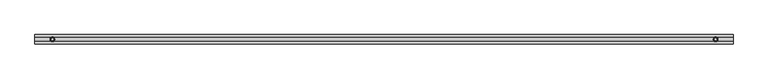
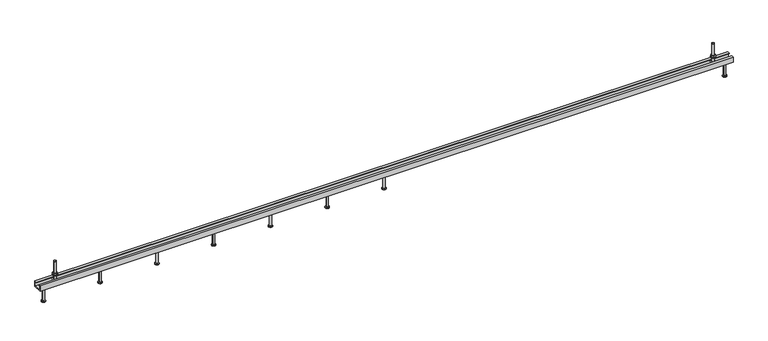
"""IFC4 building model written with IfcOpenShell, lengths in millimetres: fastener geometry, JTA-K JORDAHL® AnchorChannels : JTA-K L=3000 mm."""

from ifc_helpers import new_model, si_unit, point, frame, frame_2d, origin, place, context, project, spatial, polyline, circle_curve, trimmed, segment, composite_curve, outline, extrude, source, transform, mapped, element, save
from ifc_brep_helpers import plane_surface, cylinder_surface, revolved_surface, advanced_brep


def fastener_8d107929(model_context):
    return source(origin(), model_context, "Body", "SolidModel", [
        advanced_brep(
        [(1500.0, 0.0, -25.0), (1486.5, 0.0, -25.0), (1513.5, 0.0, -25.0), (1491.5, 0.0, -90.0), (1500.0, 0.0, -90.0), (1508.5, 0.0, -90.0), (1491.5, 0.0, -88.0), (1508.5, 0.0, -88.0), (1495.5, 0.0, -85.6905989), (1504.5, 0.0, -85.6905989), (1495.5, 0.0, -27.5), (1504.5, 0.0, -27.5)],
        [
            (0, 1),
            (1, 2, circle_curve(frame((1500.0, 0.0, -25.0), z_axis=(0.0, 0.0, 1.0), x_axis=(1.0, 0.0, 0.0)), 13.5)),
            (2, 0),
            (2, 1, circle_curve(frame((1500.0, 0.0, -25.0), z_axis=(0.0, 0.0, 1.0), x_axis=(1.0, 0.0, 0.0)), 13.5)),
            (3, 4),
            (4, 5),
            (5, 3, circle_curve(frame((1500.0, 0.0, -90.0), z_axis=(0.0, 0.0, -1.0), x_axis=(1.0, 0.0, 0.0)), 8.5)),
            (3, 5, circle_curve(frame((1500.0, 0.0, -90.0), z_axis=(0.0, 0.0, -1.0), x_axis=(1.0, 0.0, 0.0)), 8.5)),
            (6, 3),
            (5, 7),
            (7, 6, circle_curve(frame((1500.0, 0.0, -88.0), z_axis=(0.0, 0.0, -1.0), x_axis=(1.0, 0.0, 0.0)), 8.5)),
            (6, 7, circle_curve(frame((1500.0, 0.0, -88.0), z_axis=(0.0, 0.0, -1.0), x_axis=(1.0, 0.0, 0.0)), 8.5)),
            (8, 6),
            (7, 9),
            (9, 8, circle_curve(frame((1500.0, 0.0, -85.6905989), z_axis=(0.0, 0.0, -1.0), x_axis=(1.0, 0.0, 0.0)), 4.5)),
            (8, 9, circle_curve(frame((1500.0, 0.0, -85.6905989), z_axis=(0.0, 0.0, -1.0), x_axis=(1.0, 0.0, 0.0)), 4.5)),
            (10, 8),
            (9, 11),
            (11, 10, circle_curve(frame((1500.0, 0.0, -27.5), z_axis=(0.0, 0.0, -1.0), x_axis=(1.0, 0.0, 0.0)), 4.5)),
            (10, 11, circle_curve(frame((1500.0, 0.0, -27.5), z_axis=(0.0, 0.0, -1.0), x_axis=(1.0, 0.0, 0.0)), 4.5)),
            (1, 10),
            (11, 2),
        ],
        [
            plane_surface(frame((1500.0, 0.0, -25.0), z_axis=(0.0, 0.0, 1.0), x_axis=(1.0, 0.0, 0.0))),
            plane_surface(frame((1500.0, 0.0, -90.0), z_axis=(0.0, 0.0, -1.0), x_axis=(1.0, 0.0, 0.0))),
            cylinder_surface(frame((1500.0, 0.0, 2279.3150031), z_axis=(0.0, 0.0, 1.0), x_axis=(1.0, 0.0, 0.0)), 8.5),
            revolved_surface(polyline([(1508.5, 0.0, -88.0), (1504.5, 0.0, -85.6905989)]), (1500.0, 0.0, 2279.3150031), (0.0, 0.0, 1.0)),
            cylinder_surface(frame((1500.0, 0.0, 2279.3150031), z_axis=(0.0, 0.0, 1.0), x_axis=(1.0, 0.0, 0.0)), 4.5),
            revolved_surface(polyline([(1504.5, 0.0, -27.5), (1513.5, 0.0, -25.0)]), (1500.0, 0.0, 2279.3150031), (0.0, 0.0, 1.0)),
        ],
        [
            (0, [[1, 2, 3]]),
            (0, [[-3, 4, -1]]),
            (1, [[5, 6, 7]]),
            (1, [[-6, -5, 8]]),
            (2, [[9, -7, 10, 11]]),
            (2, [[-10, -8, -9, 12]]),
            (3, [[13, -11, 14, 15]]),
            (3, [[-14, -12, -13, 16]]),
            (4, [[17, -15, 18, 19]]),
            (4, [[-18, -16, -17, 20]]),
            (5, [[21, -19, 22, -2]]),
            (5, [[-22, -20, -21, -4]]),
        ],
    ),
        advanced_brep(
        [(1254.1666667, 0.0, -25.0), (1240.6666667, 0.0, -25.0), (1267.6666667, 0.0, -25.0), (1245.6666667, 0.0, -90.0), (1254.1666667, 0.0, -90.0), (1262.6666667, 0.0, -90.0), (1245.6666667, 0.0, -88.0), (1262.6666667, 0.0, -88.0), (1249.6666667, 0.0, -85.6905989), (1258.6666667, 0.0, -85.6905989), (1249.6666667, 0.0, -27.5), (1258.6666667, 0.0, -27.5)],
        [
            (0, 1),
            (1, 2, circle_curve(frame((1254.1666667, 0.0, -25.0), z_axis=(0.0, 0.0, 1.0), x_axis=(1.0, 0.0, 0.0)), 13.5)),
            (2, 0),
            (2, 1, circle_curve(frame((1254.1666667, 0.0, -25.0), z_axis=(0.0, 0.0, 1.0), x_axis=(1.0, 0.0, 0.0)), 13.5)),
            (3, 4),
            (4, 5),
            (5, 3, circle_curve(frame((1254.1666667, 0.0, -90.0), z_axis=(0.0, 0.0, -1.0), x_axis=(1.0, 0.0, 0.0)), 8.5)),
            (3, 5, circle_curve(frame((1254.1666667, 0.0, -90.0), z_axis=(0.0, 0.0, -1.0), x_axis=(1.0, 0.0, 0.0)), 8.5)),
            (6, 3),
            (5, 7),
            (7, 6, circle_curve(frame((1254.1666667, 0.0, -88.0), z_axis=(0.0, 0.0, -1.0), x_axis=(1.0, 0.0, 0.0)), 8.5)),
            (6, 7, circle_curve(frame((1254.1666667, 0.0, -88.0), z_axis=(0.0, 0.0, -1.0), x_axis=(1.0, 0.0, 0.0)), 8.5)),
            (8, 6),
            (7, 9),
            (9, 8, circle_curve(frame((1254.1666667, 0.0, -85.6905989), z_axis=(0.0, 0.0, -1.0), x_axis=(1.0, 0.0, 0.0)), 4.5)),
            (8, 9, circle_curve(frame((1254.1666667, 0.0, -85.6905989), z_axis=(0.0, 0.0, -1.0), x_axis=(1.0, 0.0, 0.0)), 4.5)),
            (10, 8),
            (9, 11),
            (11, 10, circle_curve(frame((1254.1666667, 0.0, -27.5), z_axis=(0.0, 0.0, -1.0), x_axis=(1.0, 0.0, 0.0)), 4.5)),
            (10, 11, circle_curve(frame((1254.1666667, 0.0, -27.5), z_axis=(0.0, 0.0, -1.0), x_axis=(1.0, 0.0, 0.0)), 4.5)),
            (1, 10),
            (11, 2),
        ],
        [
            plane_surface(frame((1254.1666667, 0.0, -25.0), z_axis=(0.0, 0.0, 1.0), x_axis=(1.0, 0.0, 0.0))),
            plane_surface(frame((1254.1666667, 0.0, -90.0), z_axis=(0.0, 0.0, -1.0), x_axis=(1.0, 0.0, 0.0))),
            cylinder_surface(frame((1254.1666667, 0.0, 2279.3150031), z_axis=(0.0, 0.0, 1.0), x_axis=(1.0, 0.0, 0.0)), 8.5),
            revolved_surface(polyline([(1262.6666667, 0.0, -88.0), (1258.6666667, 0.0, -85.6905989)]), (1254.1666667, 0.0, 2279.3150031), (0.0, 0.0, 1.0)),
            cylinder_surface(frame((1254.1666667, 0.0, 2279.3150031), z_axis=(0.0, 0.0, 1.0), x_axis=(1.0, 0.0, 0.0)), 4.5),
            revolved_surface(polyline([(1258.6666667, 0.0, -27.5), (1267.6666667, 0.0, -25.0)]), (1254.1666667, 0.0, 2279.3150031), (0.0, 0.0, 1.0)),
        ],
        [
            (0, [[1, 2, 3]]),
            (0, [[-3, 4, -1]]),
            (1, [[5, 6, 7]]),
            (1, [[-6, -5, 8]]),
            (2, [[9, -7, 10, 11]]),
            (2, [[-10, -8, -9, 12]]),
            (3, [[13, -11, 14, 15]]),
            (3, [[-14, -12, -13, 16]]),
            (4, [[17, -15, 18, 19]]),
            (4, [[-18, -16, -17, 20]]),
            (5, [[21, -19, 22, -2]]),
            (5, [[-22, -20, -21, -4]]),
        ],
    ),
        advanced_brep(
        [(1008.3333333, 0.0, -25.0), (994.8333333, 0.0, -25.0), (1021.8333333, 0.0, -25.0), (999.8333333, 0.0, -90.0), (1008.3333333, 0.0, -90.0), (1016.8333333, 0.0, -90.0), (999.8333333, 0.0, -88.0), (1016.8333333, 0.0, -88.0), (1003.8333333, 0.0, -85.6905989), (1012.8333333, 0.0, -85.6905989), (1003.8333333, 0.0, -27.5), (1012.8333333, 0.0, -27.5)],
        [
            (0, 1),
            (1, 2, circle_curve(frame((1008.3333333, 0.0, -25.0), z_axis=(0.0, 0.0, 1.0), x_axis=(1.0, 0.0, 0.0)), 13.5)),
            (2, 0),
            (2, 1, circle_curve(frame((1008.3333333, 0.0, -25.0), z_axis=(0.0, 0.0, 1.0), x_axis=(1.0, 0.0, 0.0)), 13.5)),
            (3, 4),
            (4, 5),
            (5, 3, circle_curve(frame((1008.3333333, 0.0, -90.0), z_axis=(0.0, 0.0, -1.0), x_axis=(1.0, 0.0, 0.0)), 8.5)),
            (3, 5, circle_curve(frame((1008.3333333, 0.0, -90.0), z_axis=(0.0, 0.0, -1.0), x_axis=(1.0, 0.0, 0.0)), 8.5)),
            (6, 3),
            (5, 7),
            (7, 6, circle_curve(frame((1008.3333333, 0.0, -88.0), z_axis=(0.0, 0.0, -1.0), x_axis=(1.0, 0.0, 0.0)), 8.5)),
            (6, 7, circle_curve(frame((1008.3333333, 0.0, -88.0), z_axis=(0.0, 0.0, -1.0), x_axis=(1.0, 0.0, 0.0)), 8.5)),
            (8, 6),
            (7, 9),
            (9, 8, circle_curve(frame((1008.3333333, 0.0, -85.6905989), z_axis=(0.0, 0.0, -1.0), x_axis=(1.0, 0.0, 0.0)), 4.5)),
            (8, 9, circle_curve(frame((1008.3333333, 0.0, -85.6905989), z_axis=(0.0, 0.0, -1.0), x_axis=(1.0, 0.0, 0.0)), 4.5)),
            (10, 8),
            (9, 11),
            (11, 10, circle_curve(frame((1008.3333333, 0.0, -27.5), z_axis=(0.0, 0.0, -1.0), x_axis=(1.0, 0.0, 0.0)), 4.5)),
            (10, 11, circle_curve(frame((1008.3333333, 0.0, -27.5), z_axis=(0.0, 0.0, -1.0), x_axis=(1.0, 0.0, 0.0)), 4.5)),
            (1, 10),
            (11, 2),
        ],
        [
            plane_surface(frame((1008.3333333, 0.0, -25.0), z_axis=(0.0, 0.0, 1.0), x_axis=(1.0, 0.0, 0.0))),
            plane_surface(frame((1008.3333333, 0.0, -90.0), z_axis=(0.0, 0.0, -1.0), x_axis=(1.0, 0.0, 0.0))),
            cylinder_surface(frame((1008.3333333, 0.0, 2279.3150031), z_axis=(0.0, 0.0, 1.0), x_axis=(1.0, 0.0, 0.0)), 8.5),
            revolved_surface(polyline([(1016.8333333, 0.0, -88.0), (1012.8333333, 0.0, -85.6905989)]), (1008.3333333, 0.0, 2279.3150031), (0.0, 0.0, 1.0)),
            cylinder_surface(frame((1008.3333333, 0.0, 2279.3150031), z_axis=(0.0, 0.0, 1.0), x_axis=(1.0, 0.0, 0.0)), 4.5),
            revolved_surface(polyline([(1012.8333333, 0.0, -27.5), (1021.8333333, 0.0, -25.0)]), (1008.3333333, 0.0, 2279.3150031), (0.0, 0.0, 1.0)),
        ],
        [
            (0, [[1, 2, 3]]),
            (0, [[-3, 4, -1]]),
            (1, [[5, 6, 7]]),
            (1, [[-6, -5, 8]]),
            (2, [[9, -7, 10, 11]]),
            (2, [[-10, -8, -9, 12]]),
            (3, [[13, -11, 14, 15]]),
            (3, [[-14, -12, -13, 16]]),
            (4, [[17, -15, 18, 19]]),
            (4, [[-18, -16, -17, 20]]),
            (5, [[21, -19, 22, -2]]),
            (5, [[-22, -20, -21, -4]]),
        ],
    ),
        advanced_brep(
        [(762.5, 0.0, -25.0), (749.0, 0.0, -25.0), (776.0, 0.0, -25.0), (754.0, 0.0, -90.0), (762.5, 0.0, -90.0), (771.0, 0.0, -90.0), (754.0, 0.0, -88.0), (771.0, 0.0, -88.0), (758.0, 0.0, -85.6905989), (767.0, 0.0, -85.6905989), (758.0, 0.0, -27.5), (767.0, 0.0, -27.5)],
        [
            (0, 1),
            (1, 2, circle_curve(frame((762.5, 0.0, -25.0), z_axis=(0.0, 0.0, 1.0), x_axis=(1.0, 0.0, 0.0)), 13.5)),
            (2, 0),
            (2, 1, circle_curve(frame((762.5, 0.0, -25.0), z_axis=(0.0, 0.0, 1.0), x_axis=(1.0, 0.0, 0.0)), 13.5)),
            (3, 4),
            (4, 5),
            (5, 3, circle_curve(frame((762.5, 0.0, -90.0), z_axis=(0.0, 0.0, -1.0), x_axis=(1.0, 0.0, 0.0)), 8.5)),
            (3, 5, circle_curve(frame((762.5, 0.0, -90.0), z_axis=(0.0, 0.0, -1.0), x_axis=(1.0, 0.0, 0.0)), 8.5)),
            (6, 3),
            (5, 7),
            (7, 6, circle_curve(frame((762.5, 0.0, -88.0), z_axis=(0.0, 0.0, -1.0), x_axis=(1.0, 0.0, 0.0)), 8.5)),
            (6, 7, circle_curve(frame((762.5, 0.0, -88.0), z_axis=(0.0, 0.0, -1.0), x_axis=(1.0, 0.0, 0.0)), 8.5)),
            (8, 6),
            (7, 9),
            (9, 8, circle_curve(frame((762.5, 0.0, -85.6905989), z_axis=(0.0, 0.0, -1.0), x_axis=(1.0, 0.0, 0.0)), 4.5)),
            (8, 9, circle_curve(frame((762.5, 0.0, -85.6905989), z_axis=(0.0, 0.0, -1.0), x_axis=(1.0, 0.0, 0.0)), 4.5)),
            (10, 8),
            (9, 11),
            (11, 10, circle_curve(frame((762.5, 0.0, -27.5), z_axis=(0.0, 0.0, -1.0), x_axis=(1.0, 0.0, 0.0)), 4.5)),
            (10, 11, circle_curve(frame((762.5, 0.0, -27.5), z_axis=(0.0, 0.0, -1.0), x_axis=(1.0, 0.0, 0.0)), 4.5)),
            (1, 10),
            (11, 2),
        ],
        [
            plane_surface(frame((762.5, 0.0, -25.0), z_axis=(0.0, 0.0, 1.0), x_axis=(1.0, 0.0, 0.0))),
            plane_surface(frame((762.5, 0.0, -90.0), z_axis=(0.0, 0.0, -1.0), x_axis=(1.0, 0.0, 0.0))),
            cylinder_surface(frame((762.5, 0.0, 2279.3150031), z_axis=(0.0, 0.0, 1.0), x_axis=(1.0, 0.0, 0.0)), 8.5),
            revolved_surface(polyline([(771.0, 0.0, -88.0), (767.0, 0.0, -85.6905989)]), (762.5, 0.0, 2279.3150031), (0.0, 0.0, 1.0)),
            cylinder_surface(frame((762.5, 0.0, 2279.3150031), z_axis=(0.0, 0.0, 1.0), x_axis=(1.0, 0.0, 0.0)), 4.5),
            revolved_surface(polyline([(767.0, 0.0, -27.5), (776.0, 0.0, -25.0)]), (762.5, 0.0, 2279.3150031), (0.0, 0.0, 1.0)),
        ],
        [
            (0, [[1, 2, 3]]),
            (0, [[-3, 4, -1]]),
            (1, [[5, 6, 7]]),
            (1, [[-6, -5, 8]]),
            (2, [[9, -7, 10, 11]]),
            (2, [[-10, -8, -9, 12]]),
            (3, [[13, -11, 14, 15]]),
            (3, [[-14, -12, -13, 16]]),
            (4, [[17, -15, 18, 19]]),
            (4, [[-18, -16, -17, 20]]),
            (5, [[21, -19, 22, -2]]),
            (5, [[-22, -20, -21, -4]]),
        ],
    ),
        advanced_brep(
        [(516.6666667, 0.0, -25.0), (503.1666667, 0.0, -25.0), (530.1666667, 0.0, -25.0), (508.1666667, 0.0, -90.0), (516.6666667, 0.0, -90.0), (525.1666667, 0.0, -90.0), (508.1666667, 0.0, -88.0), (525.1666667, 0.0, -88.0), (512.1666667, 0.0, -85.6905989), (521.1666667, 0.0, -85.6905989), (512.1666667, 0.0, -27.5), (521.1666667, 0.0, -27.5)],
        [
            (0, 1),
            (1, 2, circle_curve(frame((516.6666667, 0.0, -25.0), z_axis=(0.0, 0.0, 1.0), x_axis=(1.0, 0.0, 0.0)), 13.5)),
            (2, 0),
            (2, 1, circle_curve(frame((516.6666667, 0.0, -25.0), z_axis=(0.0, 0.0, 1.0), x_axis=(1.0, 0.0, 0.0)), 13.5)),
            (3, 4),
            (4, 5),
            (5, 3, circle_curve(frame((516.6666667, 0.0, -90.0), z_axis=(0.0, 0.0, -1.0), x_axis=(1.0, 0.0, 0.0)), 8.5)),
            (3, 5, circle_curve(frame((516.6666667, 0.0, -90.0), z_axis=(0.0, 0.0, -1.0), x_axis=(1.0, 0.0, 0.0)), 8.5)),
            (6, 3),
            (5, 7),
            (7, 6, circle_curve(frame((516.6666667, 0.0, -88.0), z_axis=(0.0, 0.0, -1.0), x_axis=(1.0, 0.0, 0.0)), 8.5)),
            (6, 7, circle_curve(frame((516.6666667, 0.0, -88.0), z_axis=(0.0, 0.0, -1.0), x_axis=(1.0, 0.0, 0.0)), 8.5)),
            (8, 6),
            (7, 9),
            (9, 8, circle_curve(frame((516.6666667, 0.0, -85.6905989), z_axis=(0.0, 0.0, -1.0), x_axis=(1.0, 0.0, 0.0)), 4.5)),
            (8, 9, circle_curve(frame((516.6666667, 0.0, -85.6905989), z_axis=(0.0, 0.0, -1.0), x_axis=(1.0, 0.0, 0.0)), 4.5)),
            (10, 8),
            (9, 11),
            (11, 10, circle_curve(frame((516.6666667, 0.0, -27.5), z_axis=(0.0, 0.0, -1.0), x_axis=(1.0, 0.0, 0.0)), 4.5)),
            (10, 11, circle_curve(frame((516.6666667, 0.0, -27.5), z_axis=(0.0, 0.0, -1.0), x_axis=(1.0, 0.0, 0.0)), 4.5)),
            (1, 10),
            (11, 2),
        ],
        [
            plane_surface(frame((516.6666667, 0.0, -25.0), z_axis=(0.0, 0.0, 1.0), x_axis=(1.0, 0.0, 0.0))),
            plane_surface(frame((516.6666667, 0.0, -90.0), z_axis=(0.0, 0.0, -1.0), x_axis=(1.0, 0.0, 0.0))),
            cylinder_surface(frame((516.6666667, 0.0, 2279.3150031), z_axis=(0.0, 0.0, 1.0), x_axis=(1.0, 0.0, 0.0)), 8.5),
            revolved_surface(polyline([(525.1666667, 0.0, -88.0), (521.1666667, 0.0, -85.6905989)]), (516.6666667, 0.0, 2279.3150031), (0.0, 0.0, 1.0)),
            cylinder_surface(frame((516.6666667, 0.0, 2279.3150031), z_axis=(0.0, 0.0, 1.0), x_axis=(1.0, 0.0, 0.0)), 4.5),
            revolved_surface(polyline([(521.1666667, 0.0, -27.5), (530.1666667, 0.0, -25.0)]), (516.6666667, 0.0, 2279.3150031), (0.0, 0.0, 1.0)),
        ],
        [
            (0, [[1, 2, 3]]),
            (0, [[-3, 4, -1]]),
            (1, [[5, 6, 7]]),
            (1, [[-6, -5, 8]]),
            (2, [[9, -7, 10, 11]]),
            (2, [[-10, -8, -9, 12]]),
            (3, [[13, -11, 14, 15]]),
            (3, [[-14, -12, -13, 16]]),
            (4, [[17, -15, 18, 19]]),
            (4, [[-18, -16, -17, 20]]),
            (5, [[21, -19, 22, -2]]),
            (5, [[-22, -20, -21, -4]]),
        ],
    ),
        advanced_brep(
        [(270.8333333, 0.0, -25.0), (257.3333333, 0.0, -25.0), (284.3333333, 0.0, -25.0), (262.3333333, 0.0, -90.0), (270.8333333, 0.0, -90.0), (279.3333333, 0.0, -90.0), (262.3333333, 0.0, -88.0), (279.3333333, 0.0, -88.0), (266.3333333, 0.0, -85.6905989), (275.3333333, 0.0, -85.6905989), (266.3333333, 0.0, -27.5), (275.3333333, 0.0, -27.5)],
        [
            (0, 1),
            (1, 2, circle_curve(frame((270.8333333, 0.0, -25.0), z_axis=(0.0, 0.0, 1.0), x_axis=(1.0, 0.0, 0.0)), 13.5)),
            (2, 0),
            (2, 1, circle_curve(frame((270.8333333, 0.0, -25.0), z_axis=(0.0, 0.0, 1.0), x_axis=(1.0, 0.0, 0.0)), 13.5)),
            (3, 4),
            (4, 5),
            (5, 3, circle_curve(frame((270.8333333, 0.0, -90.0), z_axis=(0.0, 0.0, -1.0), x_axis=(1.0, 0.0, 0.0)), 8.5)),
            (3, 5, circle_curve(frame((270.8333333, 0.0, -90.0), z_axis=(0.0, 0.0, -1.0), x_axis=(1.0, 0.0, 0.0)), 8.5)),
            (6, 3),
            (5, 7),
            (7, 6, circle_curve(frame((270.8333333, 0.0, -88.0), z_axis=(0.0, 0.0, -1.0), x_axis=(1.0, 0.0, 0.0)), 8.5)),
            (6, 7, circle_curve(frame((270.8333333, 0.0, -88.0), z_axis=(0.0, 0.0, -1.0), x_axis=(1.0, 0.0, 0.0)), 8.5)),
            (8, 6),
            (7, 9),
            (9, 8, circle_curve(frame((270.8333333, 0.0, -85.6905989), z_axis=(0.0, 0.0, -1.0), x_axis=(1.0, 0.0, 0.0)), 4.5)),
            (8, 9, circle_curve(frame((270.8333333, 0.0, -85.6905989), z_axis=(0.0, 0.0, -1.0), x_axis=(1.0, 0.0, 0.0)), 4.5)),
            (10, 8),
            (9, 11),
            (11, 10, circle_curve(frame((270.8333333, 0.0, -27.5), z_axis=(0.0, 0.0, -1.0), x_axis=(1.0, 0.0, 0.0)), 4.5)),
            (10, 11, circle_curve(frame((270.8333333, 0.0, -27.5), z_axis=(0.0, 0.0, -1.0), x_axis=(1.0, 0.0, 0.0)), 4.5)),
            (1, 10),
            (11, 2),
        ],
        [
            plane_surface(frame((270.8333333, 0.0, -25.0), z_axis=(0.0, 0.0, 1.0), x_axis=(1.0, 0.0, 0.0))),
            plane_surface(frame((270.8333333, 0.0, -90.0), z_axis=(0.0, 0.0, -1.0), x_axis=(1.0, 0.0, 0.0))),
            cylinder_surface(frame((270.8333333, 0.0, 2279.3150031), z_axis=(0.0, 0.0, 1.0), x_axis=(1.0, 0.0, 0.0)), 8.5),
            revolved_surface(polyline([(279.3333333, 0.0, -88.0), (275.3333333, 0.0, -85.6905989)]), (270.8333333, 0.0, 2279.3150031), (0.0, 0.0, 1.0)),
            cylinder_surface(frame((270.8333333, 0.0, 2279.3150031), z_axis=(0.0, 0.0, 1.0), x_axis=(1.0, 0.0, 0.0)), 4.5),
            revolved_surface(polyline([(275.3333333, 0.0, -27.5), (284.3333333, 0.0, -25.0)]), (270.8333333, 0.0, 2279.3150031), (0.0, 0.0, 1.0)),
        ],
        [
            (0, [[1, 2, 3]]),
            (0, [[-3, 4, -1]]),
            (1, [[5, 6, 7]]),
            (1, [[-6, -5, 8]]),
            (2, [[9, -7, 10, 11]]),
            (2, [[-10, -8, -9, 12]]),
            (3, [[13, -11, 14, 15]]),
            (3, [[-14, -12, -13, 16]]),
            (4, [[17, -15, 18, 19]]),
            (4, [[-18, -16, -17, 20]]),
            (5, [[21, -19, 22, -2]]),
            (5, [[-22, -20, -21, -4]]),
        ],
    ),
        extrude(outline(polyline([(2925.0, -9.2376043), (2917.0, -4.6188022), (2917.0, 4.6188022), (2925.0, 9.2376043), (2933.0, 4.6188022), (2933.0, -4.6188022), (2925.0, -9.2376043)]), holes=[composite_curve([segment(trimmed(circle_curve(frame_2d((2925.0, 0.0)), 5.0), [point((2920.0, 0.0))], [point((2930.0, 0.0))], True, "CARTESIAN"), True, "CONTINUOUS"), segment(trimmed(circle_curve(frame_2d((2925.0, 0.0)), 5.0), [point((2930.0, 0.0))], [point((2920.0, 0.0))], True, "CARTESIAN"), True, "CONTINUOUS")], self_intersect=False)]), frame((0.0, 0.0, 17.0), z_axis=(0.0, 0.0, 1.0), x_axis=(1.0, 0.0, 0.0)), (0.0, 0.0, 1.0), 8.4),
        extrude(outline(composite_curve([segment(trimmed(circle_curve(frame_2d((2925.0, 0.0)), 10.0), [point((2915.0, 0.0))], [point((2935.0, 0.0))], False, "CARTESIAN"), True, "CONTINUOUS"), segment(trimmed(circle_curve(frame_2d((2925.0, 0.0)), 10.0), [point((2935.0, 0.0))], [point((2915.0, 0.0))], False, "CARTESIAN"), True, "CONTINUOUS")], self_intersect=False), holes=[composite_curve([segment(trimmed(circle_curve(frame_2d((2925.0, 0.0)), 5.25), [point((2919.75, 0.0))], [point((2930.25, 0.0))], True, "CARTESIAN"), True, "CONTINUOUS"), segment(trimmed(circle_curve(frame_2d((2925.0, 0.0)), 5.25), [point((2930.25, 0.0))], [point((2919.75, 0.0))], True, "CARTESIAN"), True, "CONTINUOUS")], self_intersect=False)]), frame((0.0, 0.0, 15.0), z_axis=(0.0, 0.0, 1.0), x_axis=(1.0, 0.0, 0.0)), (0.0, 0.0, 1.0), 2.0),
        extrude(outline(polyline([(75.0, -9.2376043), (67.0, -4.6188022), (67.0, 4.6188022), (75.0, 9.2376043), (83.0, 4.6188022), (83.0, -4.6188022), (75.0, -9.2376043)]), holes=[composite_curve([segment(trimmed(circle_curve(frame_2d((75.0, 0.0)), 5.0), [point((70.0, 0.0))], [point((80.0, 0.0))], True, "CARTESIAN"), True, "CONTINUOUS"), segment(trimmed(circle_curve(frame_2d((75.0, 0.0)), 5.0), [point((80.0, 0.0))], [point((70.0, 0.0))], True, "CARTESIAN"), True, "CONTINUOUS")], self_intersect=False)]), frame((0.0, 0.0, 17.0), z_axis=(0.0, 0.0, 1.0), x_axis=(1.0, 0.0, 0.0)), (0.0, 0.0, 1.0), 8.4),
        extrude(outline(composite_curve([segment(trimmed(circle_curve(frame_2d((75.0, 0.0)), 10.0), [point((65.0, 0.0))], [point((85.0, 0.0))], False, "CARTESIAN"), True, "CONTINUOUS"), segment(trimmed(circle_curve(frame_2d((75.0, 0.0)), 10.0), [point((85.0, 0.0))], [point((65.0, 0.0))], False, "CARTESIAN"), True, "CONTINUOUS")], self_intersect=False), holes=[composite_curve([segment(trimmed(circle_curve(frame_2d((75.0, 0.0)), 5.25), [point((69.75, 0.0))], [point((80.25, 0.0))], True, "CARTESIAN"), True, "CONTINUOUS"), segment(trimmed(circle_curve(frame_2d((75.0, 0.0)), 5.25), [point((80.25, 0.0))], [point((69.75, 0.0))], True, "CARTESIAN"), True, "CONTINUOUS")], self_intersect=False)]), frame((0.0, 0.0, 15.0), z_axis=(0.0, 0.0, 1.0), x_axis=(1.0, 0.0, 0.0)), (0.0, 0.0, 1.0), 2.0),
        advanced_brep(
        [(2932.0, -16.0, -3.0), (2932.0, -16.0, -11.0), (2932.0, 16.0, -11.0), (2932.0, 16.0, -3.0), (2918.0, -16.0, -3.0), (2918.0, 16.0, -3.0), (2918.0, 16.0, -11.0), (2918.0, -16.0, -11.0), (2930.0, 0.0, -3.0), (2920.0, 0.0, -3.0), (2920.0, 0.0, 77.0), (2930.0, 0.0, 77.0)],
        [
            (0, 1),
            (1, 2),
            (2, 3),
            (3, 0),
            (4, 5),
            (5, 6),
            (6, 7),
            (7, 4),
            (3, 5),
            (4, 0),
            (8, 9, circle_curve(frame((2925.0, 0.0, -3.0), z_axis=(0.0, 0.0, -1.0), x_axis=(1.0, 0.0, 0.0)), 5.0)),
            (9, 8, circle_curve(frame((2925.0, 0.0, -3.0), z_axis=(0.0, 0.0, -1.0), x_axis=(1.0, 0.0, 0.0)), 5.0)),
            (2, 6),
            (1, 7),
            (10, 11, circle_curve(frame((2925.0, 0.0, 77.0), z_axis=(0.0, 0.0, 1.0), x_axis=(1.0, 0.0, 0.0)), 5.0)),
            (11, 10, circle_curve(frame((2925.0, 0.0, 77.0), z_axis=(0.0, 0.0, 1.0), x_axis=(1.0, 0.0, 0.0)), 5.0)),
            (11, 8),
            (9, 10),
        ],
        [
            plane_surface(frame((2932.0, 16.0, -3.0), z_axis=(1.0, 0.0, 0.0), x_axis=(0.0, 1.0, 0.0))),
            plane_surface(frame((2918.0, 16.0, -3.0), z_axis=(-1.0, 0.0, 0.0), x_axis=(0.0, -1.0, 0.0))),
            plane_surface(frame((2932.0, -16.0, -3.0), z_axis=(0.0, 0.0, 1.0), x_axis=(-1.0, 0.0, 0.0))),
            plane_surface(frame((2932.0, 16.0, -3.0), z_axis=(0.0, 1.0, 0.0), x_axis=(-1.0, 0.0, 0.0))),
            plane_surface(frame((2932.0, 16.0, -11.0), z_axis=(0.0, 0.0, -1.0), x_axis=(-1.0, 0.0, 0.0))),
            plane_surface(frame((2932.0, -16.0, -11.0), z_axis=(0.0, -1.0, 0.0), x_axis=(-1.0, 0.0, 0.0))),
            plane_surface(frame((2930.0, 0.0, 77.0), z_axis=(0.0, 0.0, 1.0), x_axis=(0.0, -1.0, 0.0))),
            cylinder_surface(frame((2925.0, 0.0, -3.0), z_axis=(0.0, 0.0, 1.0), x_axis=(1.0, 0.0, 0.0)), 5.0),
        ],
        [
            (0, [[1, 2, 3, 4]]),
            (1, [[5, 6, 7, 8]]),
            (2, [[9, -5, 10, -4], [11, 12]]),
            (3, [[13, -6, -9, -3]]),
            (4, [[14, -7, -13, -2]]),
            (5, [[-10, -8, -14, -1]]),
            (6, [[15, 16]]),
            (7, [[17, -12, 18, -16]]),
            (7, [[-18, -11, -17, -15]]),
        ],
    ),
        advanced_brep(
        [(82.0, -16.0, -3.0), (82.0, -16.0, -11.0), (82.0, 16.0, -11.0), (82.0, 16.0, -3.0), (68.0, -16.0, -3.0), (68.0, 16.0, -3.0), (68.0, 16.0, -11.0), (68.0, -16.0, -11.0), (80.0, 0.0, -3.0), (70.0, 0.0, -3.0), (70.0, 0.0, 77.0), (80.0, 0.0, 77.0)],
        [
            (0, 1),
            (1, 2),
            (2, 3),
            (3, 0),
            (4, 5),
            (5, 6),
            (6, 7),
            (7, 4),
            (3, 5),
            (4, 0),
            (8, 9, circle_curve(frame((75.0, 0.0, -3.0), z_axis=(0.0, 0.0, -1.0), x_axis=(1.0, 0.0, 0.0)), 5.0)),
            (9, 8, circle_curve(frame((75.0, 0.0, -3.0), z_axis=(0.0, 0.0, -1.0), x_axis=(1.0, 0.0, 0.0)), 5.0)),
            (2, 6),
            (1, 7),
            (10, 11, circle_curve(frame((75.0, 0.0, 77.0), z_axis=(0.0, 0.0, 1.0), x_axis=(1.0, 0.0, 0.0)), 5.0)),
            (11, 10, circle_curve(frame((75.0, 0.0, 77.0), z_axis=(0.0, 0.0, 1.0), x_axis=(1.0, 0.0, 0.0)), 5.0)),
            (11, 8),
            (9, 10),
        ],
        [
            plane_surface(frame((82.0, 16.0, -3.0), z_axis=(1.0, 0.0, 0.0), x_axis=(0.0, 1.0, 0.0))),
            plane_surface(frame((68.0, 16.0, -3.0), z_axis=(-1.0, 0.0, 0.0), x_axis=(0.0, -1.0, 0.0))),
            plane_surface(frame((82.0, -16.0, -3.0), z_axis=(0.0, 0.0, 1.0), x_axis=(-1.0, 0.0, 0.0))),
            plane_surface(frame((82.0, 16.0, -3.0), z_axis=(0.0, 1.0, 0.0), x_axis=(-1.0, 0.0, 0.0))),
            plane_surface(frame((82.0, 16.0, -11.0), z_axis=(0.0, 0.0, -1.0), x_axis=(-1.0, 0.0, 0.0))),
            plane_surface(frame((82.0, -16.0, -11.0), z_axis=(0.0, -1.0, 0.0), x_axis=(-1.0, 0.0, 0.0))),
            plane_surface(frame((80.0, 0.0, 77.0), z_axis=(0.0, 0.0, 1.0), x_axis=(0.0, -1.0, 0.0))),
            cylinder_surface(frame((75.0, 0.0, -3.0), z_axis=(0.0, 0.0, 1.0), x_axis=(1.0, 0.0, 0.0)), 5.0),
        ],
        [
            (0, [[1, 2, 3, 4]]),
            (1, [[5, 6, 7, 8]]),
            (2, [[9, -5, 10, -4], [11, 12]]),
            (3, [[13, -6, -9, -3]]),
            (4, [[14, -7, -13, -2]]),
            (5, [[-10, -8, -14, -1]]),
            (6, [[15, 16]]),
            (7, [[17, -12, 18, -16]]),
            (7, [[-18, -11, -17, -15]]),
        ],
    ),
        advanced_brep(
        [(2975.0, 0.0, -25.0), (2961.5, 0.0, -25.0), (2988.5, 0.0, -25.0), (2966.5, 0.0, -90.0), (2975.0, 0.0, -90.0), (2983.5, 0.0, -90.0), (2966.5, 0.0, -88.0), (2983.5, 0.0, -88.0), (2970.5, 0.0, -85.6905989), (2979.5, 0.0, -85.6905989), (2970.5, 0.0, -27.5), (2979.5, 0.0, -27.5)],
        [
            (0, 1),
            (1, 2, circle_curve(frame((2975.0, 0.0, -25.0), z_axis=(0.0, 0.0, 1.0), x_axis=(1.0, 0.0, 0.0)), 13.5)),
            (2, 0),
            (2, 1, circle_curve(frame((2975.0, 0.0, -25.0), z_axis=(0.0, 0.0, 1.0), x_axis=(1.0, 0.0, 0.0)), 13.5)),
            (3, 4),
            (4, 5),
            (5, 3, circle_curve(frame((2975.0, 0.0, -90.0), z_axis=(0.0, 0.0, -1.0), x_axis=(1.0, 0.0, 0.0)), 8.5)),
            (3, 5, circle_curve(frame((2975.0, 0.0, -90.0), z_axis=(0.0, 0.0, -1.0), x_axis=(1.0, 0.0, 0.0)), 8.5)),
            (6, 3),
            (5, 7),
            (7, 6, circle_curve(frame((2975.0, 0.0, -88.0), z_axis=(0.0, 0.0, -1.0), x_axis=(1.0, 0.0, 0.0)), 8.5)),
            (6, 7, circle_curve(frame((2975.0, 0.0, -88.0), z_axis=(0.0, 0.0, -1.0), x_axis=(1.0, 0.0, 0.0)), 8.5)),
            (8, 6),
            (7, 9),
            (9, 8, circle_curve(frame((2975.0, 0.0, -85.6905989), z_axis=(0.0, 0.0, -1.0), x_axis=(1.0, 0.0, 0.0)), 4.5)),
            (8, 9, circle_curve(frame((2975.0, 0.0, -85.6905989), z_axis=(0.0, 0.0, -1.0), x_axis=(1.0, 0.0, 0.0)), 4.5)),
            (10, 8),
            (9, 11),
            (11, 10, circle_curve(frame((2975.0, 0.0, -27.5), z_axis=(0.0, 0.0, -1.0), x_axis=(1.0, 0.0, 0.0)), 4.5)),
            (10, 11, circle_curve(frame((2975.0, 0.0, -27.5), z_axis=(0.0, 0.0, -1.0), x_axis=(1.0, 0.0, 0.0)), 4.5)),
            (1, 10),
            (11, 2),
        ],
        [
            plane_surface(frame((2975.0, 0.0, -25.0), z_axis=(0.0, 0.0, 1.0), x_axis=(1.0, 0.0, 0.0))),
            plane_surface(frame((2975.0, 0.0, -90.0), z_axis=(0.0, 0.0, -1.0), x_axis=(1.0, 0.0, 0.0))),
            cylinder_surface(frame((2975.0, 0.0, 2279.3150031), z_axis=(0.0, 0.0, 1.0), x_axis=(1.0, 0.0, 0.0)), 8.5),
            revolved_surface(polyline([(2983.5, 0.0, -88.0), (2979.5, 0.0, -85.6905989)]), (2975.0, 0.0, 2279.3150031), (0.0, 0.0, 1.0)),
            cylinder_surface(frame((2975.0, 0.0, 2279.3150031), z_axis=(0.0, 0.0, 1.0), x_axis=(1.0, 0.0, 0.0)), 4.5),
            revolved_surface(polyline([(2979.5, 0.0, -27.5), (2988.5, 0.0, -25.0)]), (2975.0, 0.0, 2279.3150031), (0.0, 0.0, 1.0)),
        ],
        [
            (0, [[1, 2, 3]]),
            (0, [[-3, 4, -1]]),
            (1, [[5, 6, 7]]),
            (1, [[-6, -5, 8]]),
            (2, [[9, -7, 10, 11]]),
            (2, [[-10, -8, -9, 12]]),
            (3, [[13, -11, 14, 15]]),
            (3, [[-14, -12, -13, 16]]),
            (4, [[17, -15, 18, 19]]),
            (4, [[-18, -16, -17, 20]]),
            (5, [[21, -19, 22, -2]]),
            (5, [[-22, -20, -21, -4]]),
        ],
    ),
        advanced_brep(
        [(25.0, 0.0, -25.0), (11.5, 0.0, -25.0), (38.5, 0.0, -25.0), (16.5, 0.0, -90.0), (25.0, 0.0, -90.0), (33.5, 0.0, -90.0), (16.5, 0.0, -88.0), (33.5, 0.0, -88.0), (20.5, 0.0, -85.6905989), (29.5, 0.0, -85.6905989), (20.5, 0.0, -27.5), (29.5, 0.0, -27.5)],
        [
            (0, 1),
            (1, 2, circle_curve(frame((25.0, 0.0, -25.0), z_axis=(0.0, 0.0, 1.0), x_axis=(1.0, 0.0, 0.0)), 13.5)),
            (2, 0),
            (2, 1, circle_curve(frame((25.0, 0.0, -25.0), z_axis=(0.0, 0.0, 1.0), x_axis=(1.0, 0.0, 0.0)), 13.5)),
            (3, 4),
            (4, 5),
            (5, 3, circle_curve(frame((25.0, 0.0, -90.0), z_axis=(0.0, 0.0, -1.0), x_axis=(1.0, 0.0, 0.0)), 8.5)),
            (3, 5, circle_curve(frame((25.0, 0.0, -90.0), z_axis=(0.0, 0.0, -1.0), x_axis=(1.0, 0.0, 0.0)), 8.5)),
            (6, 3),
            (5, 7),
            (7, 6, circle_curve(frame((25.0, 0.0, -88.0), z_axis=(0.0, 0.0, -1.0), x_axis=(1.0, 0.0, 0.0)), 8.5)),
            (6, 7, circle_curve(frame((25.0, 0.0, -88.0), z_axis=(0.0, 0.0, -1.0), x_axis=(1.0, 0.0, 0.0)), 8.5)),
            (8, 6),
            (7, 9),
            (9, 8, circle_curve(frame((25.0, 0.0, -85.6905989), z_axis=(0.0, 0.0, -1.0), x_axis=(1.0, 0.0, 0.0)), 4.5)),
            (8, 9, circle_curve(frame((25.0, 0.0, -85.6905989), z_axis=(0.0, 0.0, -1.0), x_axis=(1.0, 0.0, 0.0)), 4.5)),
            (10, 8),
            (9, 11),
            (11, 10, circle_curve(frame((25.0, 0.0, -27.5), z_axis=(0.0, 0.0, -1.0), x_axis=(1.0, 0.0, 0.0)), 4.5)),
            (10, 11, circle_curve(frame((25.0, 0.0, -27.5), z_axis=(0.0, 0.0, -1.0), x_axis=(1.0, 0.0, 0.0)), 4.5)),
            (1, 10),
            (11, 2),
        ],
        [
            plane_surface(frame((25.0, 0.0, -25.0), z_axis=(0.0, 0.0, 1.0), x_axis=(1.0, 0.0, 0.0))),
            plane_surface(frame((25.0, 0.0, -90.0), z_axis=(0.0, 0.0, -1.0), x_axis=(1.0, 0.0, 0.0))),
            cylinder_surface(frame((25.0, 0.0, 2279.3150031), z_axis=(0.0, 0.0, 1.0), x_axis=(1.0, 0.0, 0.0)), 8.5),
            revolved_surface(polyline([(33.5, 0.0, -88.0), (29.5, 0.0, -85.6905989)]), (25.0, 0.0, 2279.3150031), (0.0, 0.0, 1.0)),
            cylinder_surface(frame((25.0, 0.0, 2279.3150031), z_axis=(0.0, 0.0, 1.0), x_axis=(1.0, 0.0, 0.0)), 4.5),
            revolved_surface(polyline([(29.5, 0.0, -27.5), (38.5, 0.0, -25.0)]), (25.0, 0.0, 2279.3150031), (0.0, 0.0, 1.0)),
        ],
        [
            (0, [[1, 2, 3]]),
            (0, [[-3, 4, -1]]),
            (1, [[5, 6, 7]]),
            (1, [[-6, -5, 8]]),
            (2, [[9, -7, 10, 11]]),
            (2, [[-10, -8, -9, 12]]),
            (3, [[13, -11, 14, 15]]),
            (3, [[-14, -12, -13, 16]]),
            (4, [[17, -15, 18, 19]]),
            (4, [[-18, -16, -17, 20]]),
            (5, [[21, -19, 22, -2]]),
            (5, [[-22, -20, -21, -4]]),
        ],
    ),
        extrude(outline(polyline([(-20.0, 0.0), (-9.0, 0.0), (-9.0, -3.0), (-17.0, -3.0), (-17.0, -22.0), (17.0, -22.0), (17.0, -3.0), (9.0, -3.0), (9.0, 0.0), (20.0, 0.0), (20.0, -25.0), (-20.0, -25.0), (-20.0, 0.0)])), frame((0.0, 0.0, 0.0), z_axis=(1.0, 0.0, 0.0), x_axis=(0.0, 1.0, 0.0)), (0.0, 0.0, 1.0), 3000.0),
    ])


if __name__ == "__main__":
    model = new_model("IFC4")
    model_context = context("Model", 3, world=origin())
    ifc_project = project(units=[si_unit("LENGTHUNIT", "METRE", prefix="MILLI")], contexts=[model_context])
    site = spatial("IfcSite", under=ifc_project)
    building = spatial("IfcBuilding", under=site)
    placement = place(None, origin())
    fastener_shape = fastener_8d107929(model_context)
    element("IfcFastener", 1, ObjectType="JTA-K JORDAHL® AnchorChannels : JTA-K L=3000 mm", at=placement, inside=building, context=model_context, shape_type="MappedRepresentation", body=[
        mapped(fastener_shape, transform((0.0, 0.0, 0.0), x_axis=(1.0, 0.0, 0.0), y_axis=(0.0, 1.0, 0.0), z_axis=(0.0, 0.0, 1.0))),
    ])
    save(model, "model.ifc")
